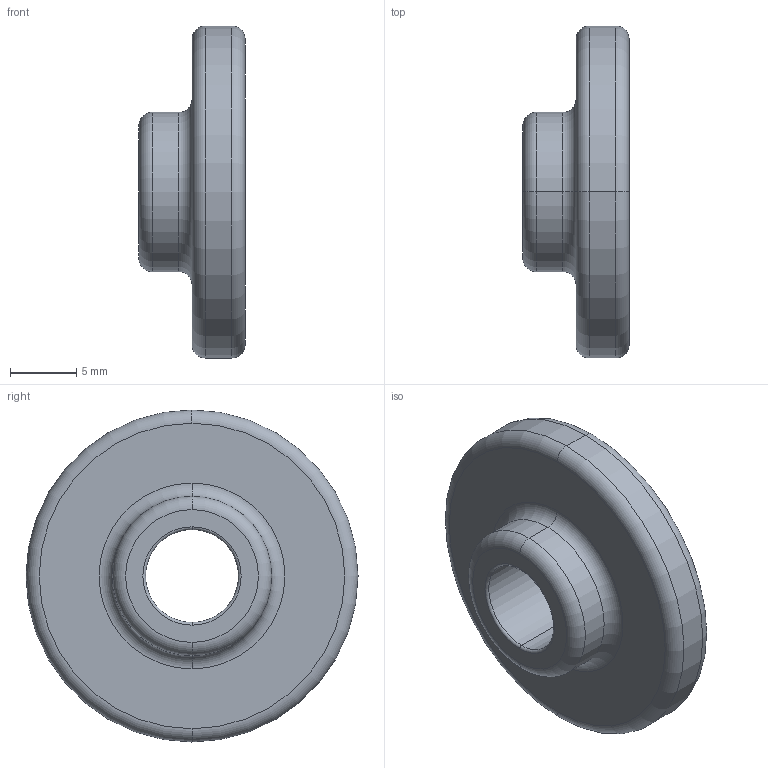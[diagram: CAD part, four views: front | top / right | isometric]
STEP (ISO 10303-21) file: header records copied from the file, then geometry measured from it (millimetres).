
FILE_DESCRIPTION (( 'STEP AP214' ), '1' );
FILE_NAME ('SS101B-4400.STEP', '2026-09-20T09:52:45', ( 'Windows 蚚誧' ), ( 'Organization' ), 'SwSTEP 2.0', 'SolidWorks 2024', '' );
FILE_SCHEMA (( 'AUTOMOTIVE_DESIGN' ));
Length unit declared in the file: millimetre
Products named in the file (1): SS101B-4400
Bounding box: 8 x 25 x 25 mm (x, y, z)
Volume: 2075.1 mm3; surface area: 1441.3 mm2
Topology: 1 solids, 1 shells, 21 faces, 42 edges, 24 vertices
Faces by surface type: torus 12, cylinder 6, plane 3
Entity records: 583 total; most frequent: DIRECTION 122, CARTESIAN_POINT 88, ORIENTED_EDGE 84, AXIS2_PLACEMENT_3D 58, EDGE_CURVE 42, CIRCLE 36, VERTEX_POINT 24, EDGE_LOOP 24
